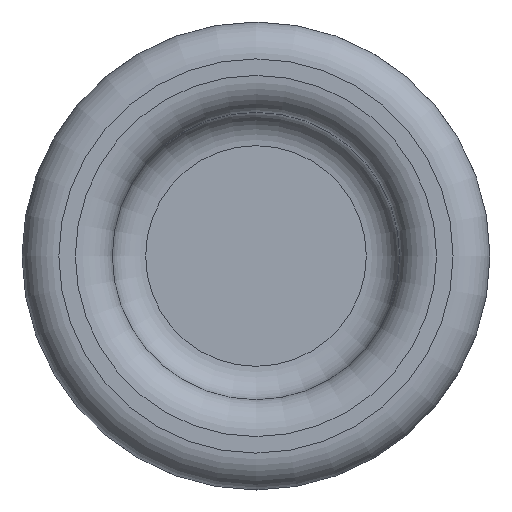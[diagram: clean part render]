
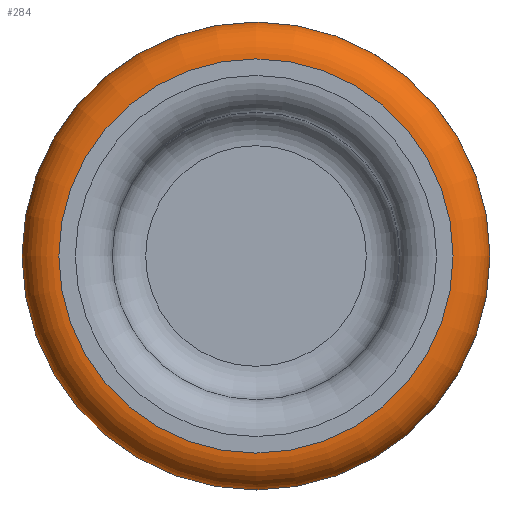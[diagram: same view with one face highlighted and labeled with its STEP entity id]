
A CAD part, left-side view. The second image highlights one B-rep face of the part: STEP entity #284.
In plain terms, the highlighted toroidal (fillet/blend) face has major radius 0.749 mm and minor radius 0.14 mm.
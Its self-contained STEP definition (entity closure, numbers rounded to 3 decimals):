
#73=FACE_BOUND($,#109,.T.);
#84=FACE_OUTER_BOUND($,#108,.T.);
#108=EDGE_LOOP($,(#216));
#109=EDGE_LOOP($,(#217));
#133=CIRCLE($,#311,0.749);
#134=CIRCLE($,#313,0.889);
#151=VERTEX_POINT($,#440);
#152=VERTEX_POINT($,#443);
#177=EDGE_CURVE($,#151,#151,#133,.T.);
#178=EDGE_CURVE($,#152,#152,#134,.T.);
#216=ORIENTED_EDGE($,*,*,#178,.F.);
#217=ORIENTED_EDGE($,*,*,#177,.T.);
#277=TOROIDAL_SURFACE($,#312,0.749,0.14);
#284=ADVANCED_FACE($,(#84,#73),#277,.T.);
#311=AXIS2_PLACEMENT_3D($,#441,#360,#361);
#312=AXIS2_PLACEMENT_3D($,#442,#362,#363);
#313=AXIS2_PLACEMENT_3D($,#444,#364,#365);
#360=DIRECTION('center_axis',(1.,0.,0.));
#361=DIRECTION('ref_axis',(0.,1.,0.));
#362=DIRECTION('center_axis',(1.,0.,0.));
#363=DIRECTION('ref_axis',(0.,0.,-1.));
#364=DIRECTION('center_axis',(1.,0.,0.));
#365=DIRECTION('ref_axis',(0.,1.,0.));
#440=CARTESIAN_POINT('',(-0.278,0.749,0.));
#441=CARTESIAN_POINT('Origin',(-0.278,0.,
0.));
#442=CARTESIAN_POINT('Origin',(-0.138,0.,
0.));
#443=CARTESIAN_POINT('',(-0.138,0.889,0.));
#444=CARTESIAN_POINT('Origin',(-0.138,0.,
0.));
